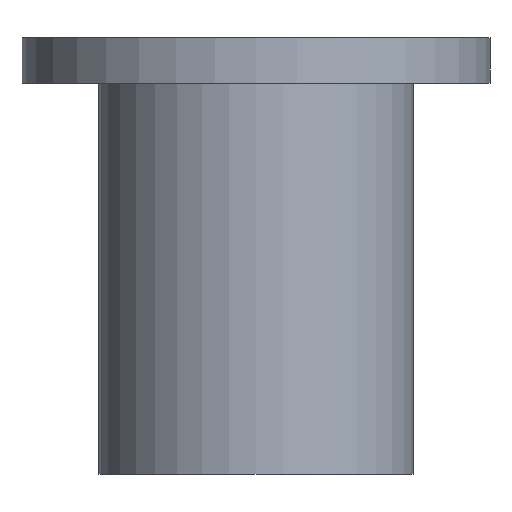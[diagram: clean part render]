
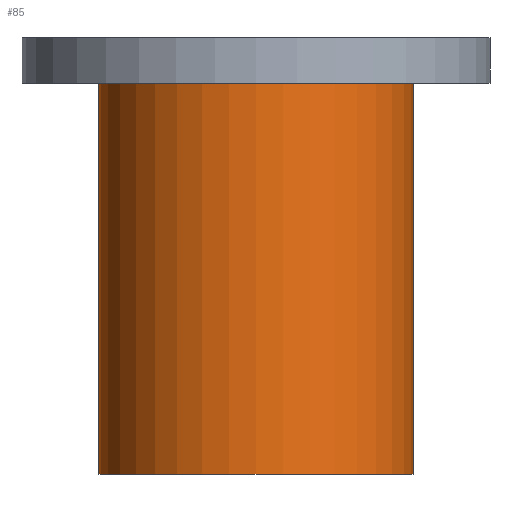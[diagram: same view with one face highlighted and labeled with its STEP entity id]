
A CAD part, front view. The second image highlights one B-rep face of the part: STEP entity #85.
In plain terms, the highlighted cylindrical face has radius 45 mm (diameter 90 mm), a partial arc.
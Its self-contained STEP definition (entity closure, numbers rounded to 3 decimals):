
#44=CARTESIAN_POINT('',(0.0,0.0,0.0));
#45=DIRECTION('',(0.0,0.0,1.0));
#46=DIRECTION('',(-1.0,0.0,0.0));
#47=AXIS2_PLACEMENT_3D('',#44,#45,#46);
#48=CYLINDRICAL_SURFACE('',#47,45.0);
#49=CARTESIAN_POINT('',(-45.0,0.,-62.5));
#50=VERTEX_POINT('',#49);
#51=CARTESIAN_POINT('',(-45.0,0.,49.5));
#52=VERTEX_POINT('',#51);
#53=CARTESIAN_POINT('',(-45.0,0.,-62.5));
#54=DIRECTION('',(0.0,0.0,1.0));
#55=VECTOR('',#54,112.0);
#56=LINE('',#53,#55);
#57=EDGE_CURVE('',#50,#52,#56,.T.);
#58=ORIENTED_EDGE('',*,*,#57,.F.);
#59=CARTESIAN_POINT('',(45.0,0.,-62.5));
#60=VERTEX_POINT('',#59);
#61=CARTESIAN_POINT('',(0.0,0.0,-62.5));
#62=DIRECTION('',(0.0,0.0,1.0));
#63=DIRECTION('',(-1.0,0.0,0.0));
#64=AXIS2_PLACEMENT_3D('',#61,#62,#63);
#65=CIRCLE('',#64,45.0);
#66=EDGE_CURVE('',#50,#60,#65,.T.);
#67=ORIENTED_EDGE('',*,*,#66,.T.);
#68=CARTESIAN_POINT('',(45.0,0.,49.5));
#69=VERTEX_POINT('',#68);
#70=CARTESIAN_POINT('',(45.0,0.,49.5));
#71=DIRECTION('',(0.0,0.0,-1.0));
#72=VECTOR('',#71,112.0);
#73=LINE('',#70,#72);
#74=EDGE_CURVE('',#69,#60,#73,.T.);
#75=ORIENTED_EDGE('',*,*,#74,.F.);
#76=CARTESIAN_POINT('',(0.0,0.0,49.5));
#77=DIRECTION('',(0.0,0.0,-1.0));
#78=DIRECTION('',(-1.0,0.0,0.0));
#79=AXIS2_PLACEMENT_3D('',#76,#77,#78);
#80=CIRCLE('',#79,45.0);
#81=EDGE_CURVE('',#69,#52,#80,.T.);
#82=ORIENTED_EDGE('',*,*,#81,.T.);
#83=EDGE_LOOP('',(#58,#67,#75,#82));
#84=FACE_OUTER_BOUND('',#83,.T.);
#85=ADVANCED_FACE('',(#84),#48,.T.);
